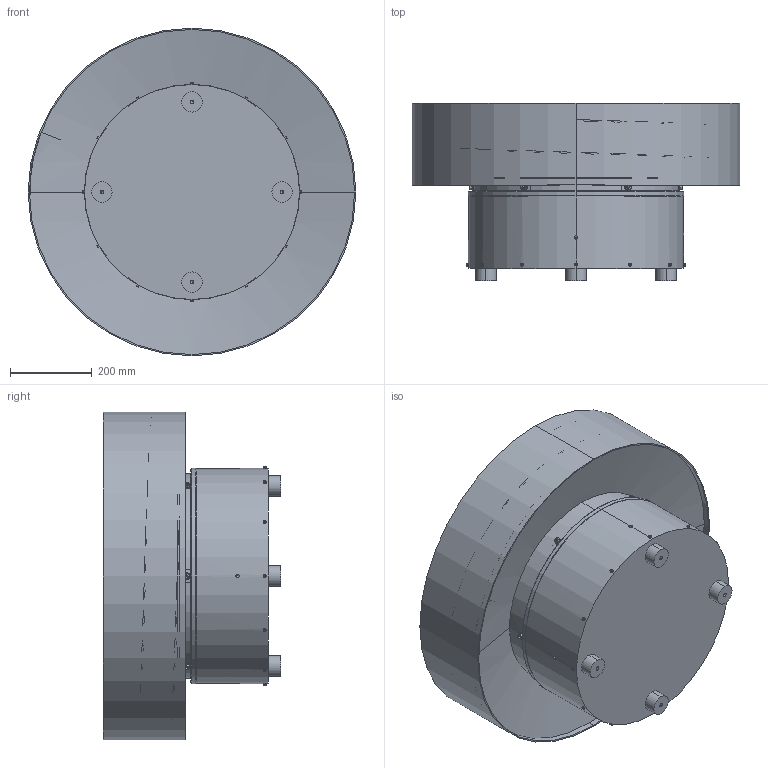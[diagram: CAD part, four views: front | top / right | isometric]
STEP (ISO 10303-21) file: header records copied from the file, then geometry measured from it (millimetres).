
FILE_DESCRIPTION (( 'STEP AP214' ), '1' );
FILE_NAME ('PC800_Q800x200_PRAWY_WIBRAMET.STEP', '2020-10-27T09:39:59', ( '' ), ( '' ), 'SwSTEP 2.0', 'SolidWorks 2017', '' );
FILE_SCHEMA (( 'AUTOMOTIVE_DESIGN' ));
Length unit declared in the file: millimetre
Products named in the file (8): PC800.26; PC800_WIBRAMET; PC800_Q800x200_PRAWY_WIBRAMET; Q800x200P-80-60; PW500-00.22[Podk³adka]; socket head cap screw_iso_ISO 4762 M16 x 120 - 44N; socket head cap screw_iso_ISO 4762 M8 x 16 - 16N; plain washer normal grade a_iso_Washer ISO 7089 - 8
Assembly tree (22 placements, depth 2):
  PC800_Q800x200_PRAWY_WIBRAMET
    PC800_WIBRAMET
    Q800x200P-80-60
    PW500-00.22[Podk³adka]
    socket head cap screw_iso_ISO 4762 M16 x 120 - 44N
    PC800.26  x6
    plain washer normal grade a_iso_Washer ISO 7089 - 8  x6
    socket head cap screw_iso_ISO 4762 M8 x 16 - 16N  x6
Bounding box: 800 x 433.08 x 800 mm (x, y, z)
Volume: 45389638.3 mm3; surface area: 3550630.6 mm2
Topology: 24 solids, 25 shells, 639 faces, 1484 edges, 914 vertices
Faces by surface type: plane 293, cylinder 218, cone 72, torus 52, bspline 4
Entity records: 14195 total; most frequent: CARTESIAN_POINT 5024, DIRECTION 1816, ORIENTED_EDGE 1700, EDGE_CURVE 850, AXIS2_PLACEMENT_3D 668, VERTEX_POINT 544, LINE 480, VECTOR 480
